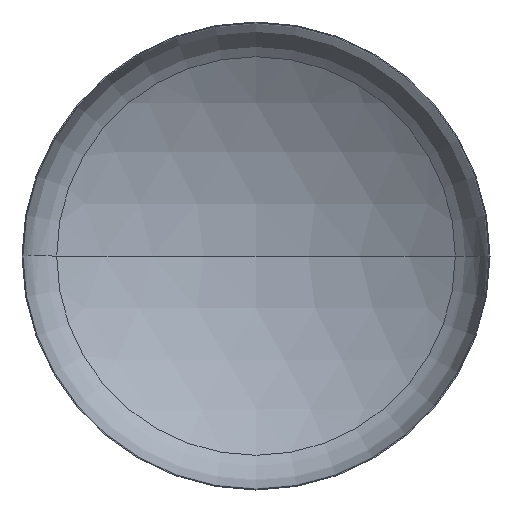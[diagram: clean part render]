
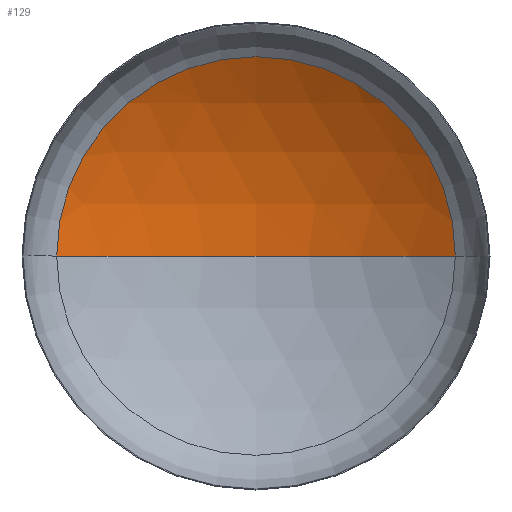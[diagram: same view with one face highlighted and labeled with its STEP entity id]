
A CAD part, front view. The second image highlights one B-rep face of the part: STEP entity #129.
In plain terms, the highlighted spherical face has radius 1760 mm.
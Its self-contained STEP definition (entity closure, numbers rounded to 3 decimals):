
#1 = VERTEX_POINT ( 'NONE', #158 ) ;
#7 = ORIENTED_EDGE ( 'NONE', *, *, #77, .T. ) ;
#22 = VERTEX_POINT ( 'NONE', #130 ) ;
#27 = AXIS2_PLACEMENT_3D ( 'NONE', #201, #378, #254 ) ;
#34 = ORIENTED_EDGE ( 'NONE', *, *, #328, .T. ) ;
#41 = ORIENTED_EDGE ( 'NONE', *, *, #114, .F. ) ;
#67 = EDGE_LOOP ( 'NONE', ( #41, #7, #34 ) ) ;
#77 = EDGE_CURVE ( 'NONE', #22, #1, #376, .T. ) ;
#90 = VERTEX_POINT ( 'NONE', #298 ) ;
#105 = FACE_OUTER_BOUND ( 'NONE', #67, .T. ) ;
#107 = AXIS2_PLACEMENT_3D ( 'NONE', #277, #132, #182 ) ;
#113 = CIRCLE ( 'NONE', #27, 937.014 ) ;
#114 = EDGE_CURVE ( 'NONE', #22, #90, #305, .T. ) ;
#129 = ADVANCED_FACE ( 'NONE', ( #105 ), #366, .F. ) ;
#130 = CARTESIAN_POINT ( 'NONE',  ( 0., 577.975, 0. ) ) ;
#132 = DIRECTION ( 'NONE',  ( 0., 0., -1. ) ) ;
#147 = DIRECTION ( 'NONE',  ( -1., 0., 0. ) ) ;
#148 = DIRECTION ( 'NONE',  ( 0., 0., -1. ) ) ;
#150 = CARTESIAN_POINT ( 'NONE',  ( 0., -1182.025, 0. ) ) ;
#158 = CARTESIAN_POINT ( 'NONE',  ( 937.014, 307.809, 0. ) ) ;
#176 = DIRECTION ( 'NONE',  ( 0., 0., 1. ) ) ;
#180 = CARTESIAN_POINT ( 'NONE',  ( 0., -1182.025, 0. ) ) ;
#182 = DIRECTION ( 'NONE',  ( -1., 0., 0. ) ) ;
#184 = DIRECTION ( 'NONE',  ( 1., 0., 0. ) ) ;
#201 = CARTESIAN_POINT ( 'NONE',  ( 0., 307.809, 0. ) ) ;
#254 = DIRECTION ( 'NONE',  ( 1., 0., 0. ) ) ;
#277 = CARTESIAN_POINT ( 'NONE',  ( 0., -1182.025, 0. ) ) ;
#298 = CARTESIAN_POINT ( 'NONE',  ( -937.014, 307.809, 0. ) ) ;
#305 = CIRCLE ( 'NONE', #409, 1760. ) ;
#328 = EDGE_CURVE ( 'NONE', #1, #90, #113, .T. ) ;
#366 = SPHERICAL_SURFACE ( 'NONE', #107, 1760. ) ;
#376 = CIRCLE ( 'NONE', #383, 1760. ) ;
#378 = DIRECTION ( 'NONE',  ( 0., -1., 0. ) ) ;
#383 = AXIS2_PLACEMENT_3D ( 'NONE', #150, #148, #147 ) ;
#409 = AXIS2_PLACEMENT_3D ( 'NONE', #180, #176, #184 ) ;
